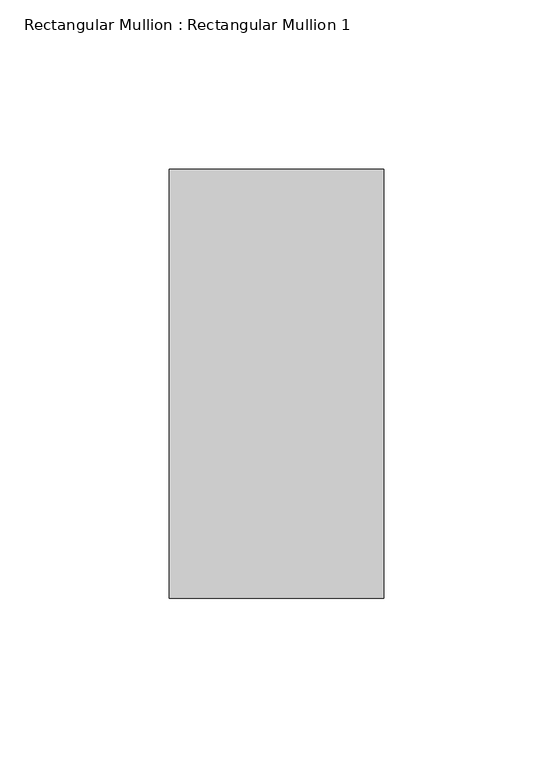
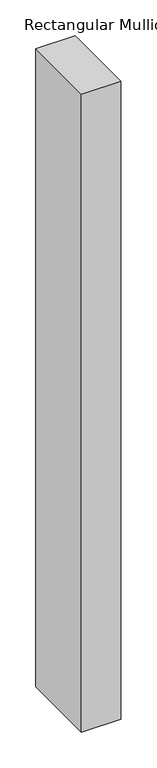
"""IFC4 building model written with IfcOpenShell, lengths in millimetres: member geometry, Rectangular Mullion : Rectangular Mullion 1."""

from ifc_helpers import new_model, si_unit, frame, origin, place, context, project, spatial, polyline, outline, extrude, source, transform, mapped, element, save


def rectangular_mullion_rectangular_mullion_1_3e036e6b(model_context):
    return source(origin(), model_context, "Body", "SweptSolid", [
        extrude(outline(polyline([(0.0, 63.5), (0.0, -63.5), (-63.5, -63.5), (-63.5, 63.5), (0.0, 63.5)])), frame((0.0, 0.0, -1085.1812347), z_axis=(0.0, 0.0, 1.0), x_axis=(1.0, 0.0, 0.0)), (0.0, 0.0, 1.0), 1085.1812347),
    ])


if __name__ == "__main__":
    model = new_model("IFC4")
    model_context = context("Model", 3, world=origin())
    ifc_project = project(units=[si_unit("LENGTHUNIT", "METRE", prefix="MILLI")], contexts=[model_context])
    site = spatial("IfcSite", under=ifc_project)
    building = spatial("IfcBuilding", under=site)
    placement = place(None, origin())
    rectangular_mullion_rectangular_mullion_1_shape = rectangular_mullion_rectangular_mullion_1_3e036e6b(model_context)
    element("IfcMember", 1, ObjectType="Rectangular Mullion : Rectangular Mullion 1", at=placement, inside=building, context=model_context, shape_type="MappedRepresentation", body=[
        mapped(rectangular_mullion_rectangular_mullion_1_shape, transform((0.0, 0.0, 0.0), x_axis=(1.0, 0.0, 0.0), y_axis=(0.0, 1.0, 0.0), z_axis=(0.0, 0.0, 1.0))),
    ])
    save(model, "model.ifc")
